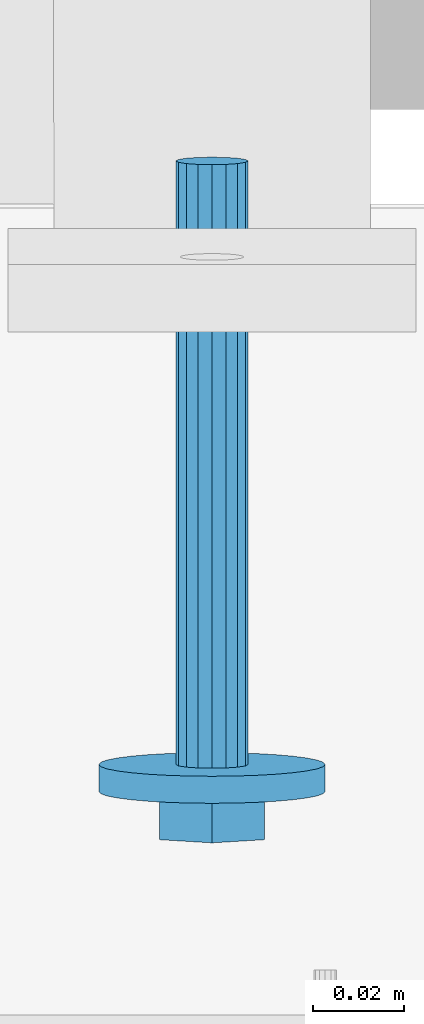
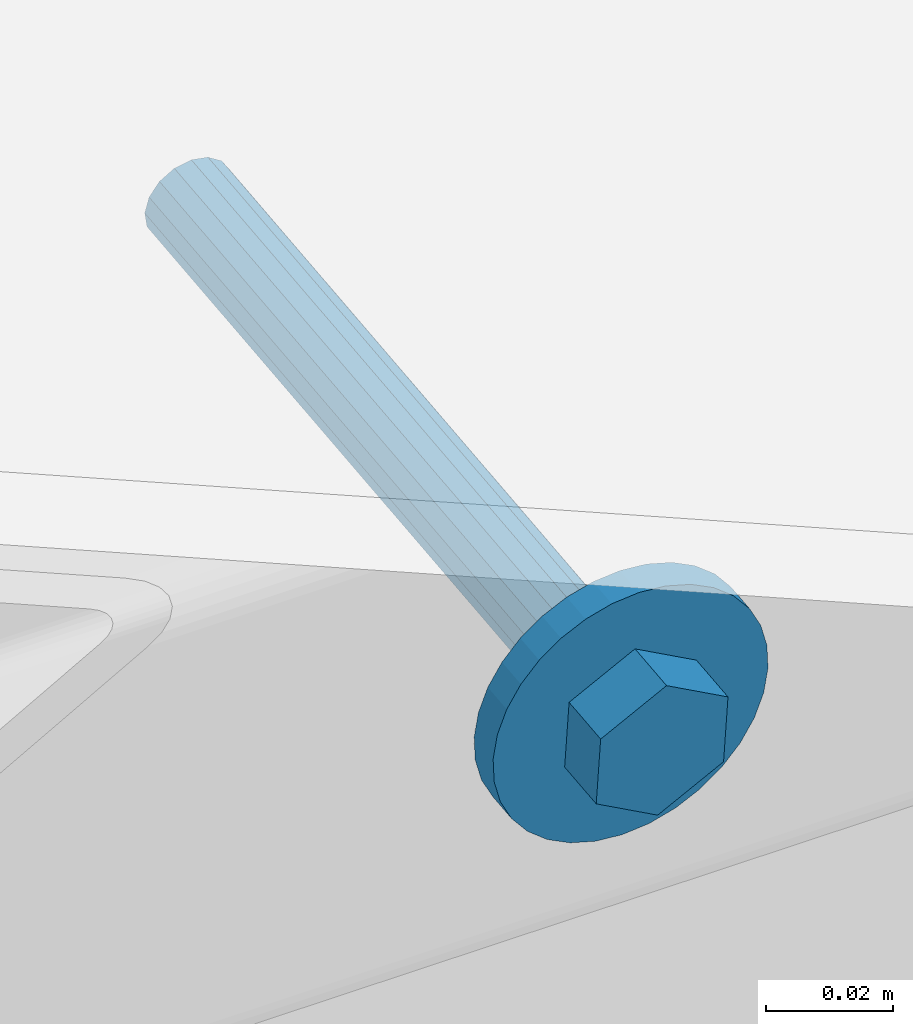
# One storey, part 28 of 116: 1 mechanical fastener.
"""IFC2X3 building model written with IfcOpenShell, lengths in millimetres."""

import ifcopenshell
import ifcopenshell.guid

model = None  # the IFC model being written
_history = None  # IfcOwnerHistory: only IFC2X3 demands one
_inside = {}  # id of a spatial element -> (the spatial element, [elements in it])
_under = {}  # id of a project, library or spatial element -> (it, [spatial elements below it])
_declared = {}  # id of a project -> (the project, [libraries it declares])
_typed = {}  # id of a type object -> (the type object, [elements of that type])
_made_of = {}  # id of a material, layer set ... -> (it, [elements and type objects made of it])


def new_model(schema):
    """Start an empty IFC model of exactly this schema.

    Asked for "IFC4X3", IfcOpenShell would pick the latest addendum, in which some entities
    have other attributes; the version numbers below select the first issue.
    IFC2X3 requires an IfcOwnerHistory on every rooted entity: one is made here for all.
    """
    global model, _history
    if schema == "IFC4X3":
        model = ifcopenshell.file(schema_version=(4, 3, 0, 0))
    else:
        model = ifcopenshell.file(schema=schema)
    _inside.clear()
    _under.clear()
    _declared.clear()
    _typed.clear()
    _made_of.clear()
    _history = None
    if model.schema == "IFC2X3":
        org = make("IfcOrganization", Name="unknown")
        user = make(
            "IfcPersonAndOrganization",
            ThePerson=make("IfcPerson", FamilyName="unknown"),
            TheOrganization=org,
        )
        app = make(
            "IfcApplication",
            ApplicationDeveloper=org,
            Version="unknown",
            ApplicationFullName="unknown",
            ApplicationIdentifier="unknown",
        )
        _history = make(
            "IfcOwnerHistory",
            OwningUser=user,
            OwningApplication=app,
            ChangeAction="ADDED",
            CreationDate=0,
        )
    return model


def make(cls, **values):
    """One entity of the class cls with the attributes given. An attribute that is None is left unset."""
    return model.create_entity(
        cls, **{name: value for name, value in values.items() if value is not None}
    )


def entity(cls, *values):
    """Any entity or typed value of the class cls, its attributes in the order of the schema. None: left unset."""
    e = model.create_entity(cls)
    for i, value in enumerate(values):
        if value is not None:
            e[i] = value
    return e


def rooted(cls, **values):
    """An entity with a GlobalId (a new one), such as an element, a storey or a relation."""
    return make(cls, GlobalId=ifcopenshell.guid.new(), OwnerHistory=_history, **values)


def si_unit(unit_type, name, prefix=None):
    """IfcSIUnit, for example si_unit("LENGTHUNIT", "METRE", prefix="MILLI")."""
    return make("IfcSIUnit", UnitType=unit_type, Prefix=prefix, Name=name)


def converted_unit(unit_type, name, factor, base, dimensions=None, offset=None):
    """IfcConversionBasedUnit, such as the inch: factor (a typed value) times the base unit."""
    return make(
        "IfcConversionBasedUnit"
        if offset is None
        else "IfcConversionBasedUnitWithOffset",
        ConversionOffset=offset,
        Dimensions=None
        if dimensions is None
        else entity("IfcDimensionalExponents", *dimensions),
        UnitType=unit_type,
        Name=name,
        ConversionFactor=make(
            "IfcMeasureWithUnit", ValueComponent=factor, UnitComponent=base
        ),
    )


def assignment(units):
    """IfcUnitAssignment: the units of a project."""
    return None if units is None else make("IfcUnitAssignment", Units=units)


def point(xyz):
    """IfcCartesianPoint."""
    return None if xyz is None else make("IfcCartesianPoint", Coordinates=xyz)


def direction(xyz):
    """IfcDirection."""
    return None if xyz is None else make("IfcDirection", DirectionRatios=xyz)


def frame(location, z_axis=None, x_axis=None):
    """IfcAxis2Placement3D, a coordinate frame: its origin and axes. An axis left out is left unset."""
    return make(
        "IfcAxis2Placement3D",
        Location=point(location),
        Axis=direction(z_axis),
        RefDirection=direction(x_axis),
    )


def origin_with_axes():
    """The frame at (0, 0, 0) with the z axis (0, 0, 1) and the x axis (1, 0, 0) written out."""
    return frame((0.0, 0.0, 0.0), z_axis=(0.0, 0.0, 1.0), x_axis=(1.0, 0.0, 0.0))


def place(relative_to, where):
    """IfcLocalPlacement: puts the frame where relative to a parent placement (None: the world)."""
    return make(
        "IfcLocalPlacement", PlacementRelTo=relative_to, RelativePlacement=where
    )


def context(
    kind, dimensions, precision=None, world=None, true_north=None, identifier=None
):
    """IfcGeometricRepresentationContext, for example the 3D "Model" context."""
    return make(
        "IfcGeometricRepresentationContext",
        ContextIdentifier=identifier,
        ContextType=kind,
        CoordinateSpaceDimension=dimensions,
        Precision=precision,
        WorldCoordinateSystem=world,
        TrueNorth=true_north,
    )


def project(units=None, contexts=None):
    """IfcProject with its units and contexts."""
    return rooted(
        "IfcProject",
        Name="project",
        RepresentationContexts=contexts,
        UnitsInContext=assignment(units),
    )


def spatial(cls, under=None, at=None, **own):
    """A site, building, storey or space (cls), placed at a placement, below another one or the project."""
    s = rooted(cls, ObjectPlacement=at, **own)
    if under is not None:
        _under.setdefault(under.id(), (under, []))[1].append(s)
    return s


def faces_of(points, faces, orient=None, outer=None):
    """IfcFace entities. A face is a list of loops; a loop is a list of indices into points, from 0.

    orient and outer hold one flag for each loop. By default every Orientation is true, the
    first loop of a face is its IfcFaceOuterBound and the others are IfcFaceBound.
    """
    made = []
    for i, loops in enumerate(faces):
        bounds = []
        for j, loop in enumerate(loops):
            is_outer = j == 0 if outer is None else outer[i][j]
            bounds.append(
                make(
                    "IfcFaceOuterBound" if is_outer else "IfcFaceBound",
                    Bound=make("IfcPolyLoop", Polygon=[points[k] for k in loop]),
                    Orientation=True if orient is None else orient[i][j],
                )
            )
        made.append(make("IfcFace", Bounds=bounds))
    return made


def faceted_brep(points, faces, orient=None, outer=None, voids=None):
    """IfcFacetedBrep: a solid bounded by flat faces; with voids (closed shells), ...WithVoids."""
    shared = [point(p) for p in points]
    hull = make("IfcClosedShell", CfsFaces=faces_of(shared, faces, orient, outer))
    if voids is None:
        return make("IfcFacetedBrep", Outer=hull)
    return make(
        "IfcFacetedBrepWithVoids",
        Outer=hull,
        Voids=[
            make(cls, CfsFaces=faces_of(shared, fs, o, b)) for cls, fs, o, b in voids
        ],
    )


def shape(context_of_items, identifier, shape_type, items):
    """IfcShapeRepresentation: the items that make up one representation, for example the "Body"."""
    return make(
        "IfcShapeRepresentation",
        ContextOfItems=context_of_items,
        RepresentationIdentifier=identifier,
        RepresentationType=shape_type,
        Items=items,
    )


def made_of(thing, what):
    """Note that an element or type object is made of a material, layer set ...; save() writes the relation."""
    if what is not None:
        _made_of.setdefault(what.id(), (what, []))[1].append(thing)
    return thing


def element(
    cls,
    number,
    at=None,
    inside=None,
    cuts=None,
    type_object=None,
    material=None,
    context=None,
    identifier="Body",
    shape_type=None,
    held_by="IfcProductDefinitionShape",
    body=None,
    shapes=None,
    **own,
):
    """One element of the class cls, such as IfcWall. Its Tag is "e" and its number.

    at: its placement. inside: the storey or other place that contains it. cuts: it is an
    opening in that element (IfcRelVoidsElement). A single representation is given by context,
    identifier, shape_type and body (its items); several are given by shapes. held_by: the class
    of the entity that holds the representations. save() writes the other relations.
    """
    e = rooted(cls, Tag="e%d" % number, ObjectPlacement=at, **own)
    if body is not None:
        shapes = [shape(context, identifier, shape_type, body)]
    if shapes is not None:
        e.Representation = make(held_by, Representations=shapes)
    if inside is not None:
        _inside.setdefault(inside.id(), (inside, []))[1].append(e)
    if cuts is not None:
        rooted(
            "IfcRelVoidsElement", RelatingBuildingElement=cuts, RelatedOpeningElement=e
        )
    if type_object is not None:
        _typed.setdefault(type_object.id(), (type_object, []))[1].append(e)
    return made_of(e, material)


def aggregate(whole, parts):
    """IfcRelAggregates: a whole, such as a stair, and the parts it consists of."""
    return rooted("IfcRelAggregates", RelatingObject=whole, RelatedObjects=parts)


def save(model, path):
    """Write the relations noted so far, then the file.

    IfcRelAggregates (storeys below a building ...), IfcRelContainedInSpatialStructure (elements
    in a storey), IfcRelDefinesByType, IfcRelAssociatesMaterial and IfcRelDeclares: one each for
    every whole, place, type object, material and project.
    """
    for whole, parts in _under.values():
        aggregate(whole, parts)
    for where, things in _inside.values():
        rooted(
            "IfcRelContainedInSpatialStructure",
            RelatedElements=things,
            RelatingStructure=where,
        )
    for kind, things in _typed.values():
        rooted("IfcRelDefinesByType", RelatedObjects=things, RelatingType=kind)
    for what, things in _made_of.values():
        rooted("IfcRelAssociatesMaterial", RelatedObjects=things, RelatingMaterial=what)
    for by, libraries in _declared.values():
        rooted("IfcRelDeclares", RelatingContext=by, RelatedDefinitions=libraries)
    model.write(path)


model = new_model("IFC2X3")

# Units and contexts
model_context = context("Model", 3, precision=1e-09, world=origin_with_axes())
ifc_project = project(units=[si_unit("LENGTHUNIT", "METRE", prefix="MILLI"), si_unit("AREAUNIT", "SQUARE_METRE"), si_unit("VOLUMEUNIT", "CUBIC_METRE"), converted_unit("PLANEANGLEUNIT", "DEGREE", entity("IfcPlaneAngleMeasure", 0.01745329), si_unit("PLANEANGLEUNIT", "RADIAN"), dimensions=[0, 0, 0, 0, 0, 0, 0])], contexts=[model_context])

# Site, building, storey
site_placement = place(None, origin_with_axes())
site = spatial("IfcSite", under=ifc_project, at=site_placement, Name="Site", CompositionType="ELEMENT")
building_placement = place(site_placement, origin_with_axes())
building = spatial("IfcBuilding", under=site, at=building_placement, Name="Struktur 1", CompositionType="ELEMENT")
storey_placement = place(building_placement, origin_with_axes())
storey = spatial("IfcBuildingStorey", under=building, at=storey_placement, Name="Default Storey", CompositionType="ELEMENT", Elevation=0.0)

# Mechanical fastener
mechanical_fastener_placement = place(None, origin_with_axes())
element("IfcMechanicalFastener", 1, at=mechanical_fastener_placement, inside=storey, ObjectType="-", NominalDiameter=16.0, NominalLength=140.0, context=model_context, shape_type="Brep", body=[
    faceted_brep([(55602.049134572, 11904.744121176, 2532.665764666), (55602.049134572, 11907.727686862, 2532.979350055), (55602.529502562, 11908.237499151, 2528.128810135), (55602.529502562, 11905.253933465, 2527.815224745), (55603.952146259, 11908.72771964, 2523.464673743), (55603.952146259, 11905.744153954, 2523.151088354), (55606.262394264, 11909.17950943, 2519.166181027), (55606.262394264, 11906.195943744, 2518.852595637), (55609.371465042, 11909.575506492, 2515.398520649), (55609.371465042, 11906.591940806, 2515.084935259), (55613.159878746, 11909.900492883, 2512.306481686), (55613.159878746, 11906.916927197, 2511.992896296), (55617.482048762, 11910.141979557, 2510.008889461), (55617.482048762, 11907.158413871, 2509.695304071), (55622.171876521, 11910.290686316, 2508.594039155), (55622.171876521, 11907.30712063, 2508.280453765), (55627.049134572, 11910.340898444, 2508.116302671), (55627.049134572, 11907.357332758, 2507.802717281), (55631.926392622, 11910.290686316, 2508.594039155), (55631.926392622, 11907.30712063, 2508.280453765), (55636.616220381, 11910.141979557, 2510.008889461), (55636.616220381, 11907.158413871, 2509.695304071), (55640.938390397, 11909.900492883, 2512.306481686), (55640.938390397, 11906.916927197, 2511.992896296), (55644.726804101, 11909.575506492, 2515.398520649), (55644.726804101, 11906.591940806, 2515.084935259), (55647.835874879, 11909.17950943, 2519.166181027), (55647.835874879, 11906.195943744, 2518.852595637), (55650.146122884, 11908.72771964, 2523.464673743), (55650.146122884, 11905.744153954, 2523.151088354), (55651.568766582, 11908.237499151, 2528.128810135), (55651.568766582, 11905.253933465, 2527.815224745), (55652.049134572, 11907.727686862, 2532.979350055), (55652.049134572, 11904.744121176, 2532.665764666), (55651.568766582, 11907.217874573, 2537.829889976), (55651.568766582, 11904.234308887, 2537.516304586), (55650.146122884, 11906.727654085, 2542.494026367), (55650.146122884, 11903.744088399, 2542.180440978), (55647.835874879, 11906.275864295, 2546.792519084), (55647.835874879, 11903.292298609, 2546.478933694), (55644.726804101, 11905.879867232, 2550.560179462), (55644.726804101, 11902.896301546, 2550.246594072), (55640.938390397, 11905.554880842, 2553.652218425), (55640.938390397, 11902.571315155, 2553.338633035), (55636.616220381, 11905.313394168, 2555.94981065), (55636.616220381, 11902.329828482, 2555.63622526), (55631.926392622, 11905.164687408, 2557.364660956), (55631.926392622, 11902.181121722, 2557.051075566), (55627.049134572, 11905.114475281, 2557.84239744), (55627.049134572, 11902.130909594, 2557.52881205), (55622.171876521, 11905.164687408, 2557.364660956), (55622.171876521, 11902.181121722, 2557.051075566), (55617.482048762, 11905.313394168, 2555.94981065), (55617.482048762, 11902.329828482, 2555.63622526), (55613.159878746, 11905.554880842, 2553.652218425), (55613.159878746, 11902.571315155, 2553.338633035), (55609.371465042, 11905.879867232, 2550.560179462), (55609.371465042, 11902.896301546, 2550.246594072), (55606.262394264, 11906.275864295, 2546.792519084), (55606.262394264, 11903.292298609, 2546.478933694), (55603.952146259, 11906.727654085, 2542.494026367), (55603.952146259, 11903.744088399, 2542.180440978), (55602.529502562, 11907.217874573, 2537.829889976), (55602.529502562, 11904.234308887, 2537.516304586)], [[[0, 1, 2, 3]], [[3, 2, 4, 5]], [[5, 4, 6, 7]], [[7, 6, 8, 9]], [[9, 8, 10, 11]], [[11, 10, 12, 13]], [[13, 12, 14, 15]], [[15, 14, 16, 17]], [[17, 16, 18, 19]], [[19, 18, 20, 21]], [[21, 20, 22, 23]], [[23, 22, 24, 25]], [[25, 24, 26, 27]], [[27, 26, 28, 29]], [[29, 28, 30, 31]], [[31, 30, 32, 33]], [[33, 32, 34, 35]], [[35, 34, 36, 37]], [[37, 36, 38, 39]], [[39, 38, 40, 41]], [[41, 40, 42, 43]], [[43, 42, 44, 45]], [[45, 44, 46, 47]], [[47, 46, 48, 49]], [[49, 48, 50, 51]], [[51, 50, 52, 53]], [[53, 52, 54, 55]], [[55, 54, 56, 57]], [[57, 56, 58, 59]], [[59, 58, 60, 61]], [[61, 60, 62, 63]], [[63, 62, 1, 0]], [[0, 3, 5, 7, 9, 11, 13, 15, 17, 19, 21, 23, 25, 27, 29, 31, 33, 35, 37, 39, 41, 43, 45, 47, 49, 51, 53, 55, 57, 59, 61, 63]], [[1, 62, 60, 58, 56, 54, 52, 50, 48, 46, 44, 42, 40, 38, 36, 34, 32, 30, 28, 26, 24, 22, 20, 18, 16, 14, 12, 10, 8, 6, 4, 2]]]),
    faceted_brep([(55602.049134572, 11901.76055549, 2532.352179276), (55602.049134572, 11904.744121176, 2532.665764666), (55602.529502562, 11905.253933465, 2527.815224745), (55602.529502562, 11902.270367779, 2527.501639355), (55603.952146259, 11905.744153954, 2523.151088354), (55603.952146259, 11902.760588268, 2522.837502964), (55606.262394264, 11906.195943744, 2518.852595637), (55606.262394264, 11903.212378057, 2518.539010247), (55609.371465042, 11906.591940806, 2515.084935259), (55609.371465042, 11903.60837512, 2514.771349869), (55613.159878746, 11906.916927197, 2511.992896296), (55613.159878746, 11903.933361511, 2511.679310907), (55617.482048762, 11907.158413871, 2509.695304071), (55617.482048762, 11904.174848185, 2509.381718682), (55622.171876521, 11907.30712063, 2508.280453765), (55622.171876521, 11904.323554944, 2507.966868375), (55627.049134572, 11907.357332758, 2507.802717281), (55627.049134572, 11904.373767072, 2507.489131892), (55631.926392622, 11907.30712063, 2508.280453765), (55631.926392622, 11904.323554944, 2507.966868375), (55636.616220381, 11907.158413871, 2509.695304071), (55636.616220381, 11904.174848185, 2509.381718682), (55640.938390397, 11906.916927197, 2511.992896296), (55640.938390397, 11903.933361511, 2511.679310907), (55644.726804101, 11906.591940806, 2515.084935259), (55644.726804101, 11903.60837512, 2514.771349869), (55647.835874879, 11906.195943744, 2518.852595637), (55647.835874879, 11903.212378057, 2518.539010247), (55650.146122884, 11905.744153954, 2523.151088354), (55650.146122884, 11902.760588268, 2522.837502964), (55651.568766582, 11905.253933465, 2527.815224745), (55651.568766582, 11902.270367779, 2527.501639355), (55652.049134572, 11904.744121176, 2532.665764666), (55652.049134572, 11901.76055549, 2532.352179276), (55651.568766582, 11904.234308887, 2537.516304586), (55651.568766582, 11901.250743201, 2537.202719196), (55650.146122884, 11903.744088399, 2542.180440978), (55650.146122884, 11900.760522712, 2541.866855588), (55647.835874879, 11903.292298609, 2546.478933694), (55647.835874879, 11900.308732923, 2546.165348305), (55644.726804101, 11902.896301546, 2550.246594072), (55644.726804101, 11899.91273586, 2549.933008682), (55640.938390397, 11902.571315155, 2553.338633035), (55640.938390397, 11899.587749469, 2553.025047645), (55636.616220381, 11902.329828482, 2555.63622526), (55636.616220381, 11899.346262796, 2555.32263987), (55631.926392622, 11902.181121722, 2557.051075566), (55631.926392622, 11899.197556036, 2556.737490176), (55627.049134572, 11902.130909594, 2557.52881205), (55627.049134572, 11899.147343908, 2557.21522666), (55622.171876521, 11902.181121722, 2557.051075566), (55622.171876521, 11899.197556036, 2556.737490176), (55617.482048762, 11902.329828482, 2555.63622526), (55617.482048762, 11899.346262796, 2555.32263987), (55613.159878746, 11902.571315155, 2553.338633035), (55613.159878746, 11899.587749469, 2553.025047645), (55609.371465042, 11902.896301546, 2550.246594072), (55609.371465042, 11899.91273586, 2549.933008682), (55606.262394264, 11903.292298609, 2546.478933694), (55606.262394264, 11900.308732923, 2546.165348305), (55603.952146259, 11903.744088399, 2542.180440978), (55603.952146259, 11900.760522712, 2541.866855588), (55602.529502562, 11904.234308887, 2537.516304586), (55602.529502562, 11901.250743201, 2537.202719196)], [[[0, 1, 2, 3]], [[3, 2, 4, 5]], [[5, 4, 6, 7]], [[7, 6, 8, 9]], [[9, 8, 10, 11]], [[11, 10, 12, 13]], [[13, 12, 14, 15]], [[15, 14, 16, 17]], [[17, 16, 18, 19]], [[19, 18, 20, 21]], [[21, 20, 22, 23]], [[23, 22, 24, 25]], [[25, 24, 26, 27]], [[27, 26, 28, 29]], [[29, 28, 30, 31]], [[31, 30, 32, 33]], [[33, 32, 34, 35]], [[35, 34, 36, 37]], [[37, 36, 38, 39]], [[39, 38, 40, 41]], [[41, 40, 42, 43]], [[43, 42, 44, 45]], [[45, 44, 46, 47]], [[47, 46, 48, 49]], [[49, 48, 50, 51]], [[51, 50, 52, 53]], [[53, 52, 54, 55]], [[55, 54, 56, 57]], [[57, 56, 58, 59]], [[59, 58, 60, 61]], [[61, 60, 62, 63]], [[63, 62, 1, 0]], [[0, 3, 5, 7, 9, 11, 13, 15, 17, 19, 21, 23, 25, 27, 29, 31, 33, 35, 37, 39, 41, 43, 45, 47, 49, 51, 53, 55, 57, 59, 61, 63]], [[1, 62, 60, 58, 56, 54, 52, 50, 48, 46, 44, 42, 40, 38, 36, 34, 32, 30, 28, 26, 24, 22, 20, 18, 16, 14, 12, 10, 8, 6, 4, 2]]]),
    faceted_brep([(55638.632224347, 11902.459589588, 2525.701314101), (55638.632224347, 11892.514370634, 2524.656029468), (55627.049134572, 11893.213404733, 2518.005164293), (55627.049134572, 11903.158623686, 2519.050448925), (55615.466044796, 11892.514370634, 2524.656029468), (55615.466044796, 11902.459589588, 2525.701314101), (55615.466044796, 11891.116302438, 2537.957759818), (55615.466044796, 11901.061521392, 2539.003044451), (55627.049134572, 11890.41726834, 2544.608624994), (55627.049134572, 11900.362487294, 2545.653909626), (55638.632224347, 11891.116302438, 2537.957759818), (55638.632224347, 11901.061521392, 2539.003044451)], [[[0, 1, 2, 3]], [[3, 2, 4, 5]], [[5, 4, 6, 7]], [[7, 6, 8, 9]], [[9, 8, 10, 11]], [[11, 10, 1, 0]], [[4, 2, 1, 10, 8, 6]], [[0, 3, 5, 7, 9, 11]]]),
    faceted_brep([(55619.049134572, 11907.727686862, 2532.979350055), (55619.049134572, 12022.096531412, 2545.0), (55619.658098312, 12022.416541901, 2541.95530358), (55619.658098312, 11908.047697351, 2529.934653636), (55621.392280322, 12022.687833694, 2539.37413459), (55621.392280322, 11908.318989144, 2527.353484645), (55623.987667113, 12022.869105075, 2537.64945261), (55623.987667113, 11908.500260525, 2525.628802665), (55627.049134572, 12022.932759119, 2537.043824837), (55627.049134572, 11908.563914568, 2525.023174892), (55630.110602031, 12022.869105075, 2537.64945261), (55630.110602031, 11908.500260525, 2525.628802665), (55632.705988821, 12022.687833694, 2539.37413459), (55632.705988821, 11908.318989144, 2527.353484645), (55634.440170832, 12022.416541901, 2541.95530358), (55634.440170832, 11908.047697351, 2529.934653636), (55635.049134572, 12022.096531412, 2545.0), (55635.049134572, 11907.727686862, 2532.979350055), (55634.440170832, 12021.776520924, 2548.04469642), (55634.440170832, 11907.407676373, 2536.024046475), (55632.705988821, 12021.505229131, 2550.62586541), (55632.705988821, 11907.136384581, 2538.605215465), (55630.110602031, 12021.32395775, 2552.35054739), (55630.110602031, 11906.9551132, 2540.329897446), (55627.049134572, 12021.260303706, 2552.956175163), (55627.049134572, 11906.891459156, 2540.935525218), (55623.987667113, 12021.32395775, 2552.35054739), (55623.987667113, 11906.9551132, 2540.329897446), (55621.392280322, 12021.505229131, 2550.62586541), (55621.392280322, 11907.136384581, 2538.605215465), (55619.658098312, 12021.776520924, 2548.04469642), (55619.658098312, 11907.407676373, 2536.024046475)], [[[0, 1, 2, 3]], [[3, 2, 4, 5]], [[5, 4, 6, 7]], [[7, 6, 8, 9]], [[9, 8, 10, 11]], [[11, 10, 12, 13]], [[13, 12, 14, 15]], [[15, 14, 16, 17]], [[17, 16, 18, 19]], [[19, 18, 20, 21]], [[21, 20, 22, 23]], [[23, 22, 24, 25]], [[25, 24, 26, 27]], [[27, 26, 28, 29]], [[29, 28, 30, 31]], [[31, 30, 1, 0]], [[0, 3, 5, 7, 9, 11, 13, 15, 17, 19, 21, 23, 25, 27, 29, 31]], [[1, 30, 28, 26, 24, 22, 20, 18, 16, 14, 12, 10, 8, 6, 4, 2]]]),
    faceted_brep([(55619.049134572, 12022.096531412, 2545.0), (55619.049134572, 12040.993620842, 2546.986164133), (55619.658098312, 12041.31363133, 2543.941467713), (55619.658098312, 12022.416541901, 2541.95530358), (55621.392280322, 12041.584923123, 2541.360298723), (55621.392280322, 12022.687833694, 2539.37413459), (55623.987667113, 12041.766194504, 2539.635616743), (55623.987667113, 12022.869105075, 2537.64945261), (55627.049134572, 12041.829848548, 2539.02998897), (55627.049134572, 12022.932759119, 2537.043824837), (55630.110602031, 12041.766194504, 2539.635616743), (55630.110602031, 12022.869105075, 2537.64945261), (55632.705988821, 12041.584923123, 2541.360298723), (55632.705988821, 12022.687833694, 2539.37413459), (55634.440170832, 12041.31363133, 2543.941467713), (55634.440170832, 12022.416541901, 2541.95530358), (55635.049134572, 12040.993620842, 2546.986164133), (55635.049134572, 12022.096531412, 2545.0), (55634.440170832, 12040.673610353, 2550.030860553), (55634.440170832, 12021.776520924, 2548.04469642), (55632.705988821, 12040.40231856, 2552.612029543), (55632.705988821, 12021.505229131, 2550.62586541), (55630.110602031, 12040.221047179, 2554.336711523), (55630.110602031, 12021.32395775, 2552.35054739), (55627.049134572, 12040.157393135, 2554.942339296), (55627.049134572, 12021.260303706, 2552.956175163), (55623.987667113, 12040.221047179, 2554.336711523), (55623.987667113, 12021.32395775, 2552.35054739), (55621.392280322, 12040.40231856, 2552.612029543), (55621.392280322, 12021.505229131, 2550.62586541), (55619.658098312, 12040.673610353, 2550.030860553), (55619.658098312, 12021.776520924, 2548.04469642)], [[[0, 1, 2, 3]], [[3, 2, 4, 5]], [[5, 4, 6, 7]], [[7, 6, 8, 9]], [[9, 8, 10, 11]], [[11, 10, 12, 13]], [[13, 12, 14, 15]], [[15, 14, 16, 17]], [[17, 16, 18, 19]], [[19, 18, 20, 21]], [[21, 20, 22, 23]], [[23, 22, 24, 25]], [[25, 24, 26, 27]], [[27, 26, 28, 29]], [[29, 28, 30, 31]], [[31, 30, 1, 0]], [[0, 3, 5, 7, 9, 11, 13, 15, 17, 19, 21, 23, 25, 27, 29, 31]], [[1, 30, 28, 26, 24, 22, 20, 18, 16, 14, 12, 10, 8, 6, 4, 2]]]),
])

save(model, "model.ifc")
